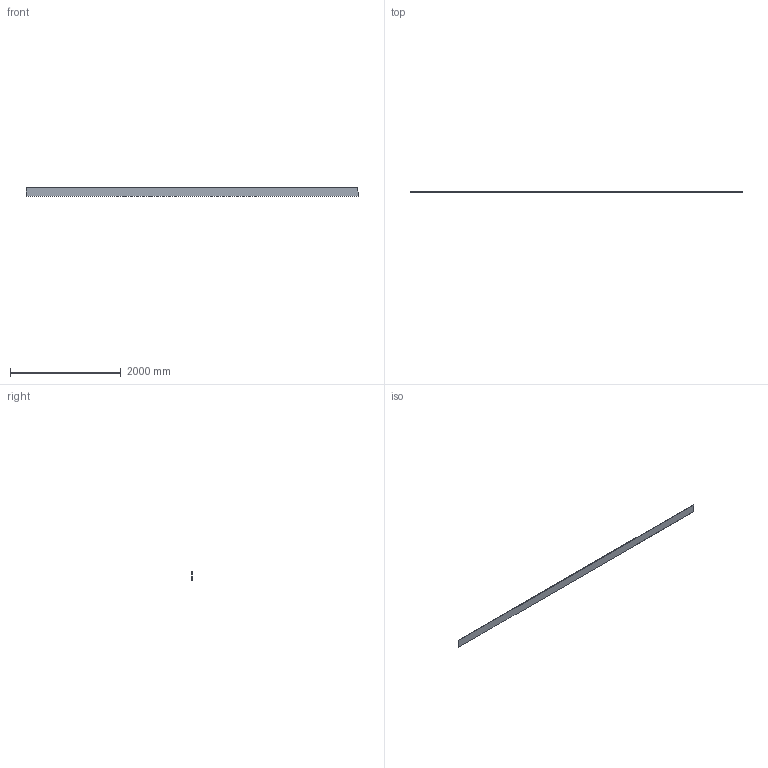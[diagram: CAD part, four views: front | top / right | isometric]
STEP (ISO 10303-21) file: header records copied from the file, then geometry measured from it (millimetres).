
FILE_DESCRIPTION (( 'STEP AP203' ), '1' );
FILE_NAME ('table_Défaut_sldprt.STEP', '2018-09-19T09:33:33', ( '' ), ( '' ), 'SwSTEP 2.0', 'SolidWorks 2016', '' );
FILE_SCHEMA (( 'CONFIG_CONTROL_DESIGN' ));
Length unit declared in the file: millimetre
Products named in the file (1): table_Défaut_sldprt
Bounding box: 6000 x 10 x 150 mm (x, y, z)
Volume: 9000000 mm3; surface area: 1923000 mm2
Topology: 1 solids, 1 shells, 6 faces, 12 edges, 8 vertices
Faces by surface type: plane 6
Entity records: 233 total; most frequent: CARTESIAN_POINT 27, DIRECTION 26, ORIENTED_EDGE 24, LINE 12, VECTOR 12, EDGE_CURVE 12, VERTEX_POINT 8, PERSON_AND_ORGANIZATION 8
